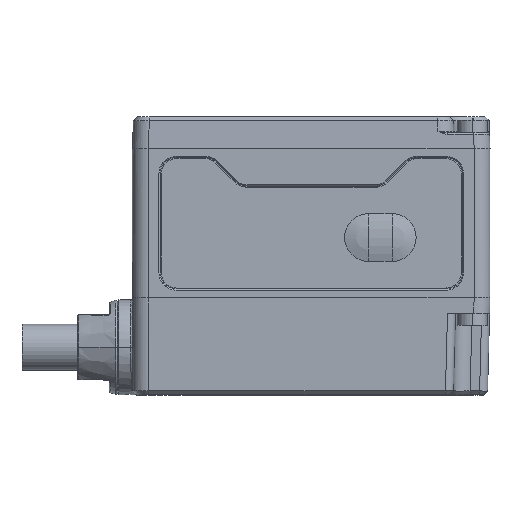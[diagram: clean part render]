
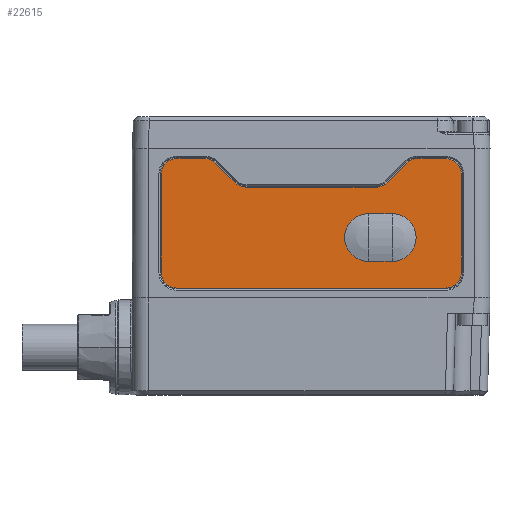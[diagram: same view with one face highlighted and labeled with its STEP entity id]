
A CAD part, top view. The second image highlights one B-rep face of the part: STEP entity #22615.
In plain terms, the highlighted planar face has unit normal (0, 0, 1).
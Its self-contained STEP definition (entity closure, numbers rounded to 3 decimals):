
#4924=DIRECTION('',(-1.,0.,0.));
#4925=VECTOR('',#4924,16.343);
#4926=CARTESIAN_POINT('',(8.172,-4.85,12.325));
#4927=LINE('',#4926,#4925);
#5015=CARTESIAN_POINT('',(-13.428,-3.25,12.325));
#5016=DIRECTION('',(0.,0.,-1.));
#5017=DIRECTION('',(0.,1.,0.));
#5018=AXIS2_PLACEMENT_3D('',#5015,#5016,#5017);
#5023=DIRECTION('',(0.707,-0.707,0.));
#5024=VECTOR('',#5023,3.434);
#5025=CARTESIAN_POINT('',(-12.014,-1.836,12.325));
#5026=LINE('',#5025,#5024);
#5030=CARTESIAN_POINT('',(-8.172,-2.85,12.325));
#5031=DIRECTION('',(0.,0.,1.));
#5032=DIRECTION('',(-0.707,-0.707,0.));
#5033=AXIS2_PLACEMENT_3D('',#5030,#5031,#5032);
#5038=CARTESIAN_POINT('',(8.172,-2.85,12.325));
#5039=DIRECTION('',(0.,0.,1.));
#5040=DIRECTION('',(0.,-1.,0.));
#5041=AXIS2_PLACEMENT_3D('',#5038,#5039,#5040);
#5046=DIRECTION('',(0.707,0.707,0.));
#5047=VECTOR('',#5046,3.434);
#5048=CARTESIAN_POINT('',(9.586,-4.264,12.325));
#5049=LINE('',#5048,#5047);
#5053=CARTESIAN_POINT('',(13.428,-3.25,12.325));
#5054=DIRECTION('',(0.,0.,-1.));
#5055=DIRECTION('',(-0.707,0.707,0.));
#5056=AXIS2_PLACEMENT_3D('',#5053,#5054,#5055);
#5061=DIRECTION('',(1.,0.,0.));
#5062=VECTOR('',#5061,3.472);
#5063=CARTESIAN_POINT('',(13.428,-1.25,12.325));
#5064=LINE('',#5063,#5062);
#5068=CARTESIAN_POINT('',(16.9,-3.25,12.325));
#5069=DIRECTION('',(0.,0.,-1.));
#5070=DIRECTION('',(0.,1.,0.));
#5071=AXIS2_PLACEMENT_3D('',#5068,#5069,#5070);
#5076=DIRECTION('',(0.,-1.,0.));
#5077=VECTOR('',#5076,12.3);
#5078=CARTESIAN_POINT('',(18.9,-3.25,12.325));
#5079=LINE('',#5078,#5077);
#5083=CARTESIAN_POINT('',(16.9,-15.55,12.325));
#5084=DIRECTION('',(0.,0.,-1.));
#5085=DIRECTION('',(1.,0.,0.));
#5086=AXIS2_PLACEMENT_3D('',#5083,#5084,#5085);
#5091=DIRECTION('',(-1.,0.,0.));
#5092=VECTOR('',#5091,33.8);
#5093=CARTESIAN_POINT('',(16.9,-17.55,12.325));
#5094=LINE('',#5093,#5092);
#5098=CARTESIAN_POINT('',(-16.9,-15.55,12.325));
#5099=DIRECTION('',(0.,0.,-1.));
#5100=DIRECTION('',(0.,-1.,0.));
#5101=AXIS2_PLACEMENT_3D('',#5098,#5099,#5100);
#5106=DIRECTION('',(0.,1.,0.));
#5107=VECTOR('',#5106,12.3);
#5108=CARTESIAN_POINT('',(-18.9,-15.55,12.325));
#5109=LINE('',#5108,#5107);
#5113=CARTESIAN_POINT('',(-16.9,-3.25,12.325));
#5114=DIRECTION('',(0.,0.,-1.));
#5115=DIRECTION('',(-1.,0.,0.));
#5116=AXIS2_PLACEMENT_3D('',#5113,#5114,#5115);
#5121=DIRECTION('',(1.,0.,0.));
#5122=VECTOR('',#5121,3.472);
#5123=CARTESIAN_POINT('',(-16.9,-1.25,12.325));
#5124=LINE('',#5123,#5122);
#5128=CARTESIAN_POINT('',(10.2,-11.2,12.325));
#5129=DIRECTION('',(0.,0.,1.));
#5130=DIRECTION('',(0.,-1.,0.));
#5131=AXIS2_PLACEMENT_3D('',#5128,#5129,#5130);
#5136=CARTESIAN_POINT('',(7.2,-11.2,12.325));
#5137=DIRECTION('',(0.,0.,1.));
#5138=DIRECTION('',(0.,1.,0.));
#5139=AXIS2_PLACEMENT_3D('',#5136,#5137,#5138);
#5160=DIRECTION('',(1.,0.,0.));
#5161=VECTOR('',#5160,3.);
#5162=CARTESIAN_POINT('',(7.2,-8.2,12.325));
#5163=LINE('',#5162,#5161);
#5167=DIRECTION('',(-1.,0.,0.));
#5168=VECTOR('',#5167,3.);
#5169=CARTESIAN_POINT('',(10.2,-14.2,12.325));
#5170=LINE('',#5169,#5168);
#16967=CARTESIAN_POINT('',(-13.428,-1.25,12.325));
#16968=CARTESIAN_POINT('',(-12.014,-1.836,12.325));
#16969=VERTEX_POINT('',#16967);
#16970=VERTEX_POINT('',#16968);
#16971=CARTESIAN_POINT('',(-9.586,-4.264,12.325));
#16972=VERTEX_POINT('',#16971);
#16973=CARTESIAN_POINT('',(-8.172,-4.85,12.325));
#16974=VERTEX_POINT('',#16973);
#16975=CARTESIAN_POINT('',(8.172,-4.85,12.325));
#16976=VERTEX_POINT('',#16975);
#16977=CARTESIAN_POINT('',(9.586,-4.264,12.325));
#16978=VERTEX_POINT('',#16977);
#16979=CARTESIAN_POINT('',(12.014,-1.836,12.325));
#16980=VERTEX_POINT('',#16979);
#16981=CARTESIAN_POINT('',(13.428,-1.25,12.325));
#16982=VERTEX_POINT('',#16981);
#16983=CARTESIAN_POINT('',(16.9,-1.25,12.325));
#16984=VERTEX_POINT('',#16983);
#16985=CARTESIAN_POINT('',(18.9,-3.25,12.325));
#16986=VERTEX_POINT('',#16985);
#16987=CARTESIAN_POINT('',(18.9,-15.55,12.325));
#16988=VERTEX_POINT('',#16987);
#16989=CARTESIAN_POINT('',(16.9,-17.55,12.325));
#16990=VERTEX_POINT('',#16989);
#16991=CARTESIAN_POINT('',(-16.9,-17.55,12.325));
#16992=VERTEX_POINT('',#16991);
#16993=CARTESIAN_POINT('',(-18.9,-15.55,12.325));
#16994=VERTEX_POINT('',#16993);
#16995=CARTESIAN_POINT('',(-18.9,-3.25,12.325));
#16996=VERTEX_POINT('',#16995);
#16997=CARTESIAN_POINT('',(-16.9,-1.25,12.325));
#16998=VERTEX_POINT('',#16997);
#16999=CARTESIAN_POINT('',(10.2,-14.2,12.325));
#17000=CARTESIAN_POINT('',(10.2,-8.2,12.325));
#17001=VERTEX_POINT('',#16999);
#17002=VERTEX_POINT('',#17000);
#17003=CARTESIAN_POINT('',(7.2,-8.2,12.325));
#17004=VERTEX_POINT('',#17003);
#17005=CARTESIAN_POINT('',(7.2,-14.2,12.325));
#17006=VERTEX_POINT('',#17005);
#22582=CARTESIAN_POINT('',(0.,-9.4,12.325));
#22583=DIRECTION('',(0.,0.,1.));
#22584=DIRECTION('',(1.,0.,0.));
#22585=AXIS2_PLACEMENT_3D('',#22582,#22583,#22584);
#22586=PLANE('',#22585);
#22587=ORIENTED_EDGE('',*,*,#22366,.T.);
#22588=ORIENTED_EDGE('',*,*,#22381,.T.);
#22589=ORIENTED_EDGE('',*,*,#22395,.T.);
#22590=ORIENTED_EDGE('',*,*,#22409,.F.);
#22591=ORIENTED_EDGE('',*,*,#22423,.T.);
#22592=ORIENTED_EDGE('',*,*,#22437,.T.);
#22593=ORIENTED_EDGE('',*,*,#22451,.T.);
#22594=ORIENTED_EDGE('',*,*,#22465,.T.);
#22595=ORIENTED_EDGE('',*,*,#22479,.T.);
#22596=ORIENTED_EDGE('',*,*,#22493,.T.);
#22597=ORIENTED_EDGE('',*,*,#22507,.T.);
#22598=ORIENTED_EDGE('',*,*,#22521,.T.);
#22599=ORIENTED_EDGE('',*,*,#22535,.T.);
#22600=ORIENTED_EDGE('',*,*,#22549,.T.);
#22601=ORIENTED_EDGE('',*,*,#22563,.T.);
#22602=ORIENTED_EDGE('',*,*,#22576,.T.);
#22603=EDGE_LOOP('',(#22587,#22588,#22589,#22590,#22591,#22592,#22593,#22594,
#22595,#22596,#22597,#22598,#22599,#22600,#22601,#22602));
#22604=FACE_OUTER_BOUND('',#22603,.F.);
#22606=ORIENTED_EDGE('',*,*,#22605,.T.);
#22608=ORIENTED_EDGE('',*,*,#22607,.F.);
#22610=ORIENTED_EDGE('',*,*,#22609,.T.);
#22612=ORIENTED_EDGE('',*,*,#22611,.F.);
#22613=EDGE_LOOP('',(#22606,#22608,#22610,#22612));
#22614=FACE_BOUND('',#22613,.F.);
#22615=ADVANCED_FACE('',(#22604,#22614),#22586,.T.);
#5019=CIRCLE('',#5018,2.);
#5034=CIRCLE('',#5033,2.);
#5042=CIRCLE('',#5041,2.);
#5057=CIRCLE('',#5056,2.);
#5072=CIRCLE('',#5071,2.);
#5087=CIRCLE('',#5086,2.);
#5102=CIRCLE('',#5101,2.);
#5117=CIRCLE('',#5116,2.);
#5132=CIRCLE('',#5131,3.);
#5140=CIRCLE('',#5139,3.);
#22366=EDGE_CURVE('',#16969,#16970,#5019,.T.);
#22381=EDGE_CURVE('',#16970,#16972,#5026,.T.);
#22395=EDGE_CURVE('',#16972,#16974,#5034,.T.);
#22409=EDGE_CURVE('',#16976,#16974,#4927,.T.);
#22423=EDGE_CURVE('',#16976,#16978,#5042,.T.);
#22437=EDGE_CURVE('',#16978,#16980,#5049,.T.);
#22451=EDGE_CURVE('',#16980,#16982,#5057,.T.);
#22465=EDGE_CURVE('',#16982,#16984,#5064,.T.);
#22479=EDGE_CURVE('',#16984,#16986,#5072,.T.);
#22493=EDGE_CURVE('',#16986,#16988,#5079,.T.);
#22507=EDGE_CURVE('',#16988,#16990,#5087,.T.);
#22521=EDGE_CURVE('',#16990,#16992,#5094,.T.);
#22535=EDGE_CURVE('',#16992,#16994,#5102,.T.);
#22549=EDGE_CURVE('',#16994,#16996,#5109,.T.);
#22563=EDGE_CURVE('',#16996,#16998,#5117,.T.);
#22576=EDGE_CURVE('',#16998,#16969,#5124,.T.);
#22605=EDGE_CURVE('',#17001,#17002,#5132,.T.);
#22607=EDGE_CURVE('',#17004,#17002,#5163,.T.);
#22609=EDGE_CURVE('',#17004,#17006,#5140,.T.);
#22611=EDGE_CURVE('',#17001,#17006,#5170,.T.);
